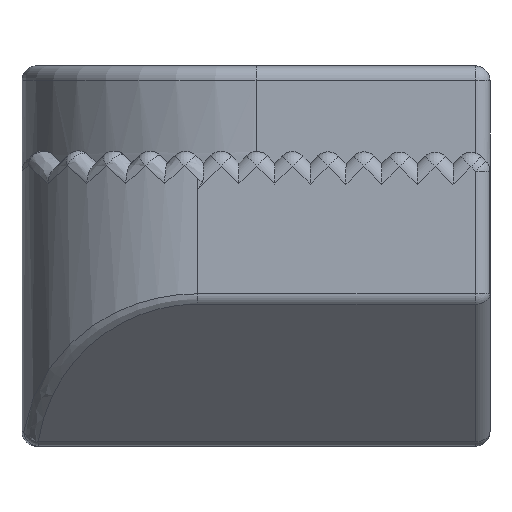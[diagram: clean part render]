
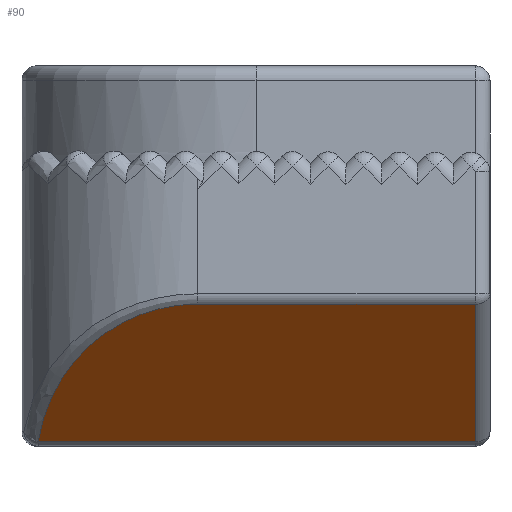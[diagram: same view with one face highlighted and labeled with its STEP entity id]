
A CAD part, left-side view. The second image highlights one B-rep face of the part: STEP entity #90.
In plain terms, the highlighted planar face has unit normal (-0.707, 0, -0.707).
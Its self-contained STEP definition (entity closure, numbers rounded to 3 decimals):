
#90 = ADVANCED_FACE ( 'NONE', ( #10052 ), #2402, .F. ) ;
#291 = VECTOR ( 'NONE', #7709, 1000. ) ;
#1415 = ORIENTED_EDGE ( 'NONE', *, *, #8103, .T. ) ;
#1496 = LINE ( 'NONE', #6509, #7482 ) ;
#1691 = CARTESIAN_POINT ( 'NONE',  ( -23.527, 9.148, 0.073 ) ) ;
#1928 = DIRECTION ( 'NONE',  ( 0., 1., 0. ) ) ;
#2065 = CARTESIAN_POINT ( 'NONE',  ( -23.527, 9.148, 0.073 ) ) ;
#2181 = EDGE_CURVE ( 'NONE', #2391, #4619, #9841, .T. ) ;
#2391 = VERTEX_POINT ( 'NONE', #3860 ) ;
#2402 = PLANE ( 'NONE',  #3336 ) ;
#2782 = EDGE_CURVE ( 'NONE', #9550, #7314, #8697, .T. ) ;
#2832 = CARTESIAN_POINT ( 'NONE',  ( -23.527, 9.427, 0.073 ) ) ;
#2965 = ORIENTED_EDGE ( 'NONE', *, *, #2782, .T. ) ;
#3170 = CARTESIAN_POINT ( 'NONE',  ( -25.88, 6.427, 2.427 ) ) ;
#3316 = CARTESIAN_POINT ( 'NONE',  ( -25.88, 6.427, 2.427 ) ) ;
#3336 = AXIS2_PLACEMENT_3D ( 'NONE', #4024, #9705, #4855 ) ;
#3860 = CARTESIAN_POINT ( 'NONE',  ( -25.88, 1.677, 2.427 ) ) ;
#4024 = CARTESIAN_POINT ( 'NONE',  ( -25.953, 9.427, 2.5 ) ) ;
#4619 = VERTEX_POINT ( 'NONE', #3170 ) ;
#4855 = DIRECTION ( 'NONE',  ( 0.707, 0., -0.707 ) ) ;
#5041 =( BOUNDED_CURVE ( )  B_SPLINE_CURVE ( 3, ( #3316, #5728, #6576, #1691 ),
 .UNSPECIFIED., .F., .F. ) 
 B_SPLINE_CURVE_WITH_KNOTS ( ( 4, 4 ),
 ( 3.142, 4.568 ),
 .UNSPECIFIED. ) 
 CURVE ( )  GEOMETRIC_REPRESENTATION_ITEM ( )  RATIONAL_B_SPLINE_CURVE ( ( 1., 0.838, 0.838, 1. ) ) 
 REPRESENTATION_ITEM ( '' )  );
#5728 = CARTESIAN_POINT ( 'NONE',  ( -25.88, 7.859, 2.427 ) ) ;
#6509 = CARTESIAN_POINT ( 'NONE',  ( -25.953, 1.677, 2.5 ) ) ;
#6576 = CARTESIAN_POINT ( 'NONE',  ( -24.943, 8.942, 1.49 ) ) ;
#6651 = CARTESIAN_POINT ( 'NONE',  ( -25.88, 9.427, 2.427 ) ) ;
#7314 = VERTEX_POINT ( 'NONE', #9506 ) ;
#7482 = VECTOR ( 'NONE', #8964, 1000. ) ;
#7547 = EDGE_LOOP ( 'NONE', ( #1415, #2965, #10295, #9490 ) ) ;
#7709 = DIRECTION ( 'NONE',  ( 0., -1., 0. ) ) ;
#8041 = EDGE_CURVE ( 'NONE', #7314, #2391, #1496, .T. ) ;
#8103 = EDGE_CURVE ( 'NONE', #4619, #9550, #5041, .T. ) ;
#8697 = LINE ( 'NONE', #2832, #291 ) ;
#8964 = DIRECTION ( 'NONE',  ( -0.707, 0., 0.707 ) ) ;
#9490 = ORIENTED_EDGE ( 'NONE', *, *, #2181, .T. ) ;
#9506 = CARTESIAN_POINT ( 'NONE',  ( -23.527, 1.677, 0.073 ) ) ;
#9550 = VERTEX_POINT ( 'NONE', #2065 ) ;
#9597 = VECTOR ( 'NONE', #1928, 1000. ) ;
#9705 = DIRECTION ( 'NONE',  ( 0.707, 0., 0.707 ) ) ;
#9841 = LINE ( 'NONE', #6651, #9597 ) ;
#10052 = FACE_OUTER_BOUND ( 'NONE', #7547, .T. ) ;
#10295 = ORIENTED_EDGE ( 'NONE', *, *, #8041, .T. ) ;
